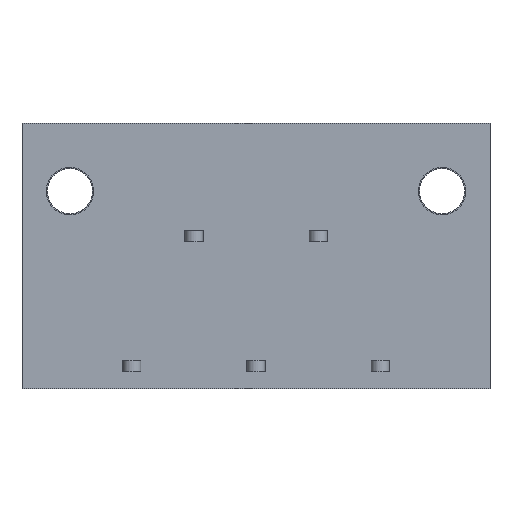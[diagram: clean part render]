
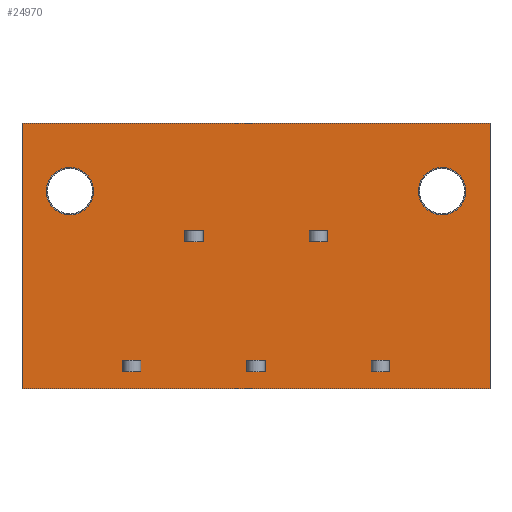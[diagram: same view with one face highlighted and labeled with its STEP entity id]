
A CAD part, front view. The second image highlights one B-rep face of the part: STEP entity #24970.
In plain terms, the highlighted planar face has unit normal (0, -1, 0).
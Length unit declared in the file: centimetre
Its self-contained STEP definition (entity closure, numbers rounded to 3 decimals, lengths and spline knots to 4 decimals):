
#1288=VECTOR('',#26710,1.);
#1296=VECTOR('',#26719,1.);
#1315=VECTOR('',#26763,1.);
#1317=VECTOR('',#26766,1.);
#1338=VECTOR('',#26798,1.);
#1342=VECTOR('',#26803,1.);
#1363=VECTOR('',#26849,1.);
#1365=VECTOR('',#26852,1.);
#1769=VECTOR('',#27398,1.);
#1910=VECTOR('',#27701,1.);
#1918=VECTOR('',#27721,1.);
#1926=VECTOR('',#27741,1.);
#1928=VECTOR('',#27744,1.);
#1933=VECTOR('',#27751,1.);
#1947=VECTOR('',#27771,1.);
#1948=VECTOR('',#27772,1.);
#1949=VECTOR('',#27773,1.);
#1950=VECTOR('',#27774,1.);
#1951=VECTOR('',#27775,1.);
#1952=VECTOR('',#27776,1.);
#1953=VECTOR('',#27777,1.);
#1954=VECTOR('',#27778,1.);
#1955=VECTOR('',#27779,1.);
#1956=VECTOR('',#27780,1.);
#4103=LINE('',#31458,#1288);
#4111=LINE('',#31475,#1296);
#4130=LINE('',#31530,#1315);
#4132=LINE('',#31534,#1317);
#4153=LINE('',#31577,#1338);
#4157=LINE('',#31586,#1342);
#4178=LINE('',#31646,#1363);
#4180=LINE('',#31650,#1365);
#4584=LINE('',#33119,#1769);
#4725=LINE('',#33543,#1910);
#4733=LINE('',#33565,#1918);
#4741=LINE('',#33588,#1926);
#4743=LINE('',#33592,#1928);
#4748=LINE('',#33602,#1933);
#4762=LINE('',#33632,#1947);
#4763=LINE('',#33635,#1948);
#4764=LINE('',#33637,#1949);
#4765=LINE('',#33639,#1950);
#4766=LINE('',#33640,#1951);
#4767=LINE('',#33643,#1952);
#4768=LINE('',#33645,#1953);
#4769=LINE('',#33647,#1954);
#4770=LINE('',#33648,#1955);
#4771=LINE('',#33650,#1956);
#6956=PLANE('',#40943);
#7661=CIRCLE('',#40601,0.21);
#7669=CIRCLE('',#40628,0.21);
#8061=VERTEX_POINT('',#31341);
#8099=VERTEX_POINT('',#31450);
#8102=VERTEX_POINT('',#31459);
#8103=VERTEX_POINT('',#31460);
#8110=VERTEX_POINT('',#31476);
#8131=VERTEX_POINT('',#31531);
#8143=VERTEX_POINT('',#31578);
#8144=VERTEX_POINT('',#31579);
#8147=VERTEX_POINT('',#31587);
#8171=VERTEX_POINT('',#31647);
#8513=VERTEX_POINT('',#33118);
#8514=VERTEX_POINT('',#33120);
#8646=VERTEX_POINT('',#33544);
#8647=VERTEX_POINT('',#33545);
#8653=VERTEX_POINT('',#33566);
#8660=VERTEX_POINT('',#33589);
#8663=VERTEX_POINT('',#33601);
#8676=VERTEX_POINT('',#33633);
#8677=VERTEX_POINT('',#33634);
#8678=VERTEX_POINT('',#33636);
#8679=VERTEX_POINT('',#33638);
#8680=VERTEX_POINT('',#33641);
#8681=VERTEX_POINT('',#33642);
#8682=VERTEX_POINT('',#33644);
#8683=VERTEX_POINT('',#33646);
#8684=VERTEX_POINT('',#33649);
#10699=EDGE_CURVE('',#8061,#8061,#7661,.T.);
#10752=EDGE_CURVE('',#8099,#8099,#7669,.T.);
#10756=EDGE_CURVE('',#8102,#8103,#4103,.T.);
#10764=EDGE_CURVE('',#8110,#8102,#4111,.T.);
#10794=EDGE_CURVE('',#8131,#8110,#4130,.T.);
#10796=EDGE_CURVE('',#8103,#8131,#4132,.T.);
#10817=EDGE_CURVE('',#8143,#8144,#4153,.T.);
#10821=EDGE_CURVE('',#8147,#8143,#4157,.T.);
#10853=EDGE_CURVE('',#8171,#8147,#4178,.T.);
#10855=EDGE_CURVE('',#8144,#8171,#4180,.T.);
#11363=EDGE_CURVE('',#8514,#8513,#4584,.T.);
#11562=EDGE_CURVE('',#8646,#8647,#4725,.T.);
#11574=EDGE_CURVE('',#8653,#8646,#4733,.T.);
#11586=EDGE_CURVE('',#8660,#8653,#4741,.T.);
#11588=EDGE_CURVE('',#8647,#8660,#4743,.T.);
#11593=EDGE_CURVE('',#8513,#8663,#4748,.T.);
#11608=EDGE_CURVE('',#8676,#8677,#4762,.T.);
#11609=EDGE_CURVE('',#8678,#8676,#4763,.T.);
#11610=EDGE_CURVE('',#8679,#8678,#4764,.T.);
#11611=EDGE_CURVE('',#8677,#8679,#4765,.T.);
#11612=EDGE_CURVE('',#8680,#8681,#4766,.T.);
#11613=EDGE_CURVE('',#8682,#8680,#4767,.T.);
#11614=EDGE_CURVE('',#8683,#8682,#4768,.T.);
#11615=EDGE_CURVE('',#8681,#8683,#4769,.T.);
#11616=EDGE_CURVE('',#8663,#8684,#4770,.T.);
#11617=EDGE_CURVE('',#8514,#8684,#4771,.T.);
#16529=ORIENTED_EDGE('',*,*,#10699,.T.);
#16530=ORIENTED_EDGE('',*,*,#10752,.T.);
#16531=ORIENTED_EDGE('',*,*,#10764,.T.);
#16532=ORIENTED_EDGE('',*,*,#10756,.T.);
#16533=ORIENTED_EDGE('',*,*,#10796,.T.);
#16534=ORIENTED_EDGE('',*,*,#10794,.T.);
#16535=ORIENTED_EDGE('',*,*,#10821,.T.);
#16536=ORIENTED_EDGE('',*,*,#10817,.T.);
#16537=ORIENTED_EDGE('',*,*,#10855,.T.);
#16538=ORIENTED_EDGE('',*,*,#10853,.T.);
#16539=ORIENTED_EDGE('',*,*,#11608,.F.);
#16540=ORIENTED_EDGE('',*,*,#11609,.F.);
#16541=ORIENTED_EDGE('',*,*,#11610,.F.);
#16542=ORIENTED_EDGE('',*,*,#11611,.F.);
#16543=ORIENTED_EDGE('',*,*,#11612,.F.);
#16544=ORIENTED_EDGE('',*,*,#11613,.F.);
#16545=ORIENTED_EDGE('',*,*,#11614,.F.);
#16546=ORIENTED_EDGE('',*,*,#11615,.F.);
#16547=ORIENTED_EDGE('',*,*,#11593,.T.);
#16548=ORIENTED_EDGE('',*,*,#11616,.T.);
#16549=ORIENTED_EDGE('',*,*,#11617,.F.);
#16550=ORIENTED_EDGE('',*,*,#11363,.T.);
#16551=ORIENTED_EDGE('',*,*,#11574,.F.);
#16552=ORIENTED_EDGE('',*,*,#11586,.F.);
#16553=ORIENTED_EDGE('',*,*,#11588,.F.);
#16554=ORIENTED_EDGE('',*,*,#11562,.F.);
#21952=EDGE_LOOP('',(#16529));
#21953=EDGE_LOOP('',(#16530));
#21954=EDGE_LOOP('',(#16531,#16532,#16533,#16534));
#21955=EDGE_LOOP('',(#16535,#16536,#16537,#16538));
#21956=EDGE_LOOP('',(#16539,#16540,#16541,#16542));
#21957=EDGE_LOOP('',(#16543,#16544,#16545,#16546));
#21958=EDGE_LOOP('',(#16547,#16548,#16549,#16550));
#21959=EDGE_LOOP('',(#16551,#16552,#16553,#16554));
#23489=FACE_BOUND('',#21952,.T.);
#23490=FACE_BOUND('',#21953,.T.);
#23491=FACE_BOUND('',#21954,.T.);
#23492=FACE_BOUND('',#21955,.T.);
#23493=FACE_BOUND('',#21956,.T.);
#23494=FACE_BOUND('',#21957,.T.);
#23495=FACE_BOUND('',#21958,.T.);
#23496=FACE_BOUND('',#21959,.T.);
#24970=ADVANCED_FACE('',(#23489,#23490,#23491,#23492,#23493,#23494,#23495,
#23496),#6956,.T.);
#26620=DIRECTION('',(0.,1.,0.));
#26621=DIRECTION('',(0.21,0.,0.));
#26703=DIRECTION('',(0.,1.,0.));
#26704=DIRECTION('',(0.21,0.,0.));
#26710=DIRECTION('',(0.,0.,1.));
#26719=DIRECTION('',(-1.,0.,0.));
#26763=DIRECTION('',(0.,0.,-1.));
#26766=DIRECTION('',(1.,0.,0.));
#26798=DIRECTION('',(0.,0.,1.));
#26803=DIRECTION('',(-1.,0.,0.));
#26849=DIRECTION('',(0.,0.,-1.));
#26852=DIRECTION('',(1.,0.,0.));
#27398=DIRECTION('',(0.,0.,-1.));
#27701=DIRECTION('',(0.,0.,1.));
#27721=DIRECTION('',(1.,0.,0.));
#27741=DIRECTION('',(0.,0.,-1.));
#27744=DIRECTION('',(-1.,0.,0.));
#27751=DIRECTION('',(1.,0.,0.));
#27770=DIRECTION('',(0.,-1.,0.));
#27771=DIRECTION('',(1.,0.,0.));
#27772=DIRECTION('',(0.,0.,-1.));
#27773=DIRECTION('',(-1.,0.,0.));
#27774=DIRECTION('',(0.,0.,1.));
#27775=DIRECTION('',(1.,0.,0.));
#27776=DIRECTION('',(0.,0.,-1.));
#27777=DIRECTION('',(-1.,0.,0.));
#27778=DIRECTION('',(0.,0.,1.));
#27779=DIRECTION('',(0.,0.,1.));
#27780=DIRECTION('',(1.,0.,0.));
#31340=CARTESIAN_POINT('',(0.55,-2.045,1.15));
#31341=CARTESIAN_POINT('',(0.34,-2.045,1.15));
#31449=CARTESIAN_POINT('',(-2.75,-2.045,1.15));
#31450=CARTESIAN_POINT('',(-2.96,-2.045,1.15));
#31458=CARTESIAN_POINT('',(-1.7299,-2.045,0.375));
#31459=CARTESIAN_POINT('',(-1.7299,-2.045,0.7));
#31460=CARTESIAN_POINT('',(-1.7299,-2.045,0.8));
#31475=CARTESIAN_POINT('',(-1.0449,-2.045,0.7));
#31476=CARTESIAN_POINT('',(-1.5699,-2.045,0.7));
#31530=CARTESIAN_POINT('',(-1.5699,-2.045,0.375));
#31531=CARTESIAN_POINT('',(-1.5699,-2.045,0.8));
#31534=CARTESIAN_POINT('',(-1.0449,-2.045,0.8));
#31577=CARTESIAN_POINT('',(-2.28,-2.045,-0.2));
#31578=CARTESIAN_POINT('',(-2.28,-2.045,-0.45));
#31579=CARTESIAN_POINT('',(-2.28,-2.045,-0.35));
#31586=CARTESIAN_POINT('',(-1.32,-2.045,-0.45));
#31587=CARTESIAN_POINT('',(-2.12,-2.045,-0.45));
#31646=CARTESIAN_POINT('',(-2.12,-2.045,-0.2));
#31647=CARTESIAN_POINT('',(-2.12,-2.045,-0.35));
#31650=CARTESIAN_POINT('',(-1.32,-2.045,-0.35));
#33118=CARTESIAN_POINT('',(-3.175,-2.045,-0.6));
#33119=CARTESIAN_POINT('',(-3.175,-2.045,0.6));
#33120=CARTESIAN_POINT('',(-3.175,-2.045,1.75));
#33543=CARTESIAN_POINT('',(0.08,-2.045,-0.2));
#33544=CARTESIAN_POINT('',(0.08,-2.045,-0.45));
#33545=CARTESIAN_POINT('',(0.08,-2.045,-0.35));
#33565=CARTESIAN_POINT('',(-0.22,-2.045,-0.45));
#33566=CARTESIAN_POINT('',(-0.08,-2.045,-0.45));
#33588=CARTESIAN_POINT('',(-0.08,-2.045,-0.2));
#33589=CARTESIAN_POINT('',(-0.08,-2.045,-0.35));
#33592=CARTESIAN_POINT('',(-0.22,-2.045,-0.35));
#33601=CARTESIAN_POINT('',(0.975,-2.045,-0.6));
#33602=CARTESIAN_POINT('',(-3.175,-2.045,-0.6));
#33631=CARTESIAN_POINT('',(-0.44,-2.045,0.));
#33632=CARTESIAN_POINT('',(-1.32,-2.045,-0.45));
#33633=CARTESIAN_POINT('',(-1.18,-2.045,-0.45));
#33634=CARTESIAN_POINT('',(-1.02,-2.045,-0.45));
#33635=CARTESIAN_POINT('',(-1.18,-2.045,-0.2));
#33636=CARTESIAN_POINT('',(-1.18,-2.045,-0.35));
#33637=CARTESIAN_POINT('',(-1.32,-2.045,-0.35));
#33638=CARTESIAN_POINT('',(-1.02,-2.045,-0.35));
#33639=CARTESIAN_POINT('',(-1.02,-2.045,-0.2));
#33640=CARTESIAN_POINT('',(-0.7699,-2.045,0.7));
#33641=CARTESIAN_POINT('',(-0.6299,-2.045,0.7));
#33642=CARTESIAN_POINT('',(-0.4699,-2.045,0.7));
#33643=CARTESIAN_POINT('',(-0.6299,-2.045,0.9625));
#33644=CARTESIAN_POINT('',(-0.6299,-2.045,0.8));
#33645=CARTESIAN_POINT('',(-0.7699,-2.045,0.8));
#33646=CARTESIAN_POINT('',(-0.4699,-2.045,0.8));
#33647=CARTESIAN_POINT('',(-0.4699,-2.045,0.9625));
#33648=CARTESIAN_POINT('',(0.975,-2.045,1.75));
#33649=CARTESIAN_POINT('',(0.975,-2.045,1.75));
#33650=CARTESIAN_POINT('',(-3.175,-2.045,1.75));
#40601=AXIS2_PLACEMENT_3D('',#31340,#26620,#26621);
#40628=AXIS2_PLACEMENT_3D('',#31449,#26703,#26704);
#40943=AXIS2_PLACEMENT_3D('',#33631,#27770,$);
